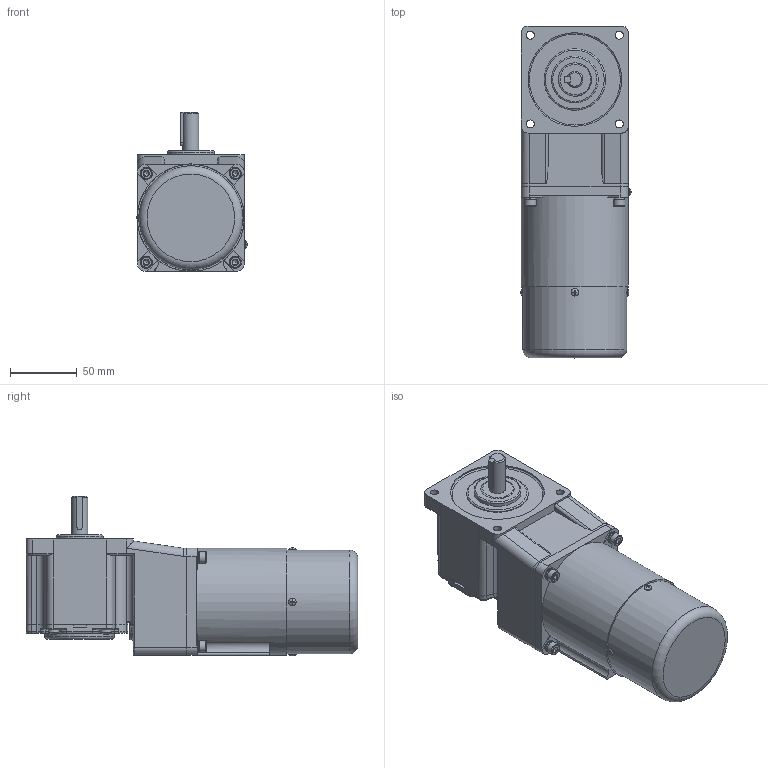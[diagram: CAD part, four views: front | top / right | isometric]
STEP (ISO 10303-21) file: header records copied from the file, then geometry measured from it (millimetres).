
FILE_DESCRIPTION(/* description */ (''),/* implementation_level */ '2;1');
FILE_NAME(/* name */ '80+中实直角-刹车-25W.stp',/* time_stamp */ '2022-11-01T12:45:39+08:00',/* author */ (''),/* organization */ (''),/* preprocessor_version */ 'ST-DEVELOPER v16.7',/* originating_system */ 'SIEMENS PLM Software NX 1899',/* authorisation */ '');
FILE_SCHEMA (('AP203_CONFIGURATION_CONTROLLED_3D_DESIGN_OF_MECHANICAL_PARTS_AND_ASSEMBLIES_MIM_LF { 1 0 10303 403 2 1 2}'));
Length unit declared in the file: millimetre
Products named in the file (1): yf1854BC0762njfa
Bounding box: 82.43 x 248 x 119.34 mm (x, y, z)
Volume: 1319174.3 mm3; surface area: 116250.7 mm2
Topology: 15 solids, 15 shells, 666 faces, 1569 edges, 963 vertices
Faces by surface type: plane 353, cylinder 187, torus 56, cone 42, bspline 18, sphere 10
Full cylindrical faces by diameter (mm): 4.2 x4, 4.826 x4, 5 x8, 5.3 x4, 5.6 x5, 6 x8, 8 x4, 8.5 x4, 9 x4, 12 x1, 25 x1, 35 x1, 46 x1, 52 x1, 56 x1, 70 x1, 76 x2, 77.5 x1, 80 x1
Entity records: 20617 total; most frequent: CARTESIAN_POINT 4760, DIRECTION 3077, ORIENTED_EDGE 2830, EDGE_CURVE 1415, AXIS2_PLACEMENT_3D 1190, VERTEX_POINT 917, EDGE_LOOP 820, LINE 697
